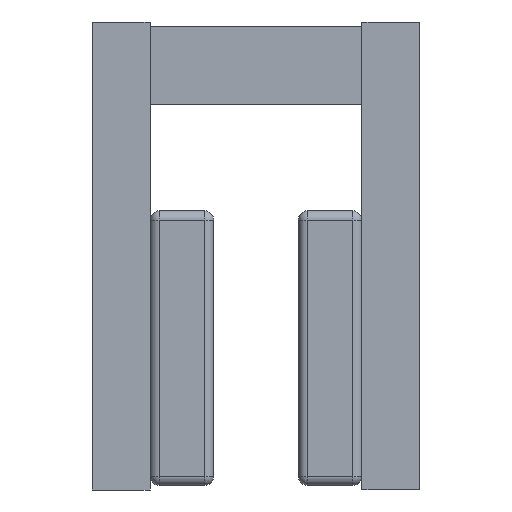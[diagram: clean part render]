
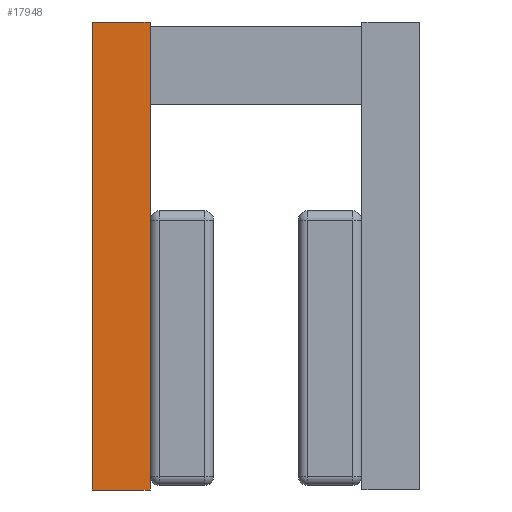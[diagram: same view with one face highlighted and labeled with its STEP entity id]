
A CAD part, left-side view. The second image highlights one B-rep face of the part: STEP entity #17948.
In plain terms, the highlighted planar face has unit normal (-1, 0, 0).
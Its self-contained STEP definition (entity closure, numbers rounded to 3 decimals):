
#966 = CARTESIAN_POINT ( 'NONE',  ( -105.951, 3.115, 4.75 ) ) ;
#1113 = LINE ( 'NONE', #16023, #26388 ) ;
#2382 = ORIENTED_EDGE ( 'NONE', *, *, #25741, .T. ) ;
#2617 = DIRECTION ( 'NONE',  ( 0., 0., 1. ) ) ;
#3341 = CARTESIAN_POINT ( 'NONE',  ( -105.951, -3.135, -46.05 ) ) ;
#4237 = ORIENTED_EDGE ( 'NONE', *, *, #27017, .F. ) ;
#4814 = DIRECTION ( 'NONE',  ( 1., 0., 0. ) ) ;
#5667 = ORIENTED_EDGE ( 'NONE', *, *, #23010, .T. ) ;
#6374 = EDGE_CURVE ( 'NONE', #13806, #25170, #19771, .T. ) ;
#6384 = CARTESIAN_POINT ( 'NONE',  ( -105.951, 3.115, -46.05 ) ) ;
#7588 = DIRECTION ( 'NONE',  ( 0., -1., 0. ) ) ;
#8671 = LINE ( 'NONE', #25742, #10928 ) ;
#9745 = CARTESIAN_POINT ( 'NONE',  ( -105.951, -3.135, 4.75 ) ) ;
#9985 = CARTESIAN_POINT ( 'NONE',  ( -105.951, 3.115, -46.05 ) ) ;
#10757 = DIRECTION ( 'NONE',  ( 0., -1., 0. ) ) ;
#10928 = VECTOR ( 'NONE', #10757, 1000. ) ;
#11390 = VERTEX_POINT ( 'NONE', #9745 ) ;
#12041 = PLANE ( 'NONE',  #19687 ) ;
#12903 = VECTOR ( 'NONE', #2617, 1000. ) ;
#13290 = VERTEX_POINT ( 'NONE', #3341 ) ;
#13806 = VERTEX_POINT ( 'NONE', #6384 ) ;
#16023 = CARTESIAN_POINT ( 'NONE',  ( -105.951, 3.115, 4.75 ) ) ;
#16150 = CARTESIAN_POINT ( 'NONE',  ( -105.951, -3.135, -46.05 ) ) ;
#16655 = CARTESIAN_POINT ( 'NONE',  ( -105.951, 3.115, -46.05 ) ) ;
#17948 = ADVANCED_FACE ( 'NONE', ( #27237 ), #12041, .F. ) ;
#19687 = AXIS2_PLACEMENT_3D ( 'NONE', #16655, #4814, #7588 ) ;
#19771 = LINE ( 'NONE', #9985, #12903 ) ;
#20940 = DIRECTION ( 'NONE',  ( 0., -1., 0. ) ) ;
#22454 = ORIENTED_EDGE ( 'NONE', *, *, #6374, .F. ) ;
#22565 = VECTOR ( 'NONE', #30606, 1000. ) ;
#23010 = EDGE_CURVE ( 'NONE', #13290, #11390, #26015, .T. ) ;
#25170 = VERTEX_POINT ( 'NONE', #966 ) ;
#25741 = EDGE_CURVE ( 'NONE', #13806, #13290, #8671, .T. ) ;
#25742 = CARTESIAN_POINT ( 'NONE',  ( -105.951, 3.115, -46.05 ) ) ;
#26015 = LINE ( 'NONE', #16150, #22565 ) ;
#26388 = VECTOR ( 'NONE', #20940, 1000. ) ;
#27017 = EDGE_CURVE ( 'NONE', #25170, #11390, #1113, .T. ) ;
#27237 = FACE_OUTER_BOUND ( 'NONE', #30436, .T. ) ;
#30436 = EDGE_LOOP ( 'NONE', ( #5667, #4237, #22454, #2382 ) ) ;
#30606 = DIRECTION ( 'NONE',  ( 0., 0., 1. ) ) ;
